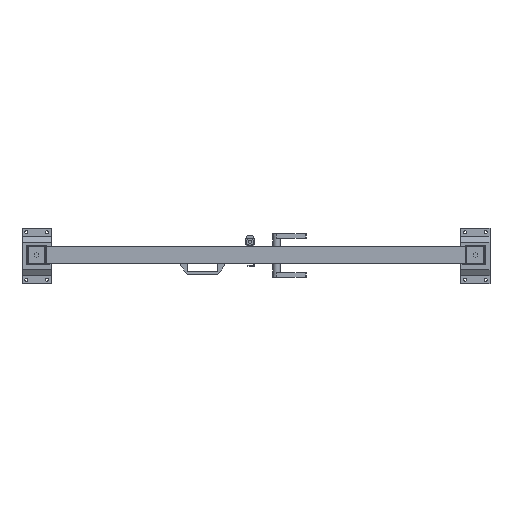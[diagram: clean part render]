
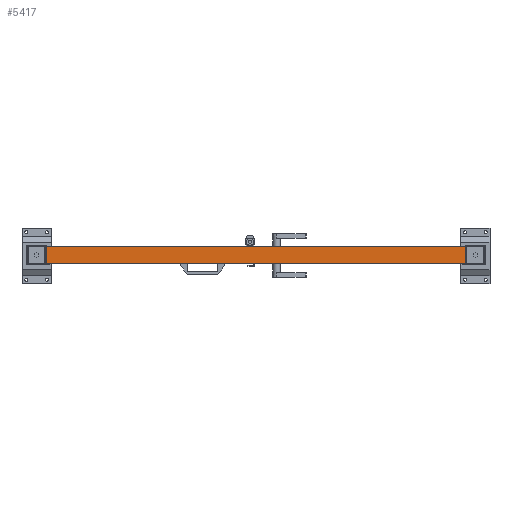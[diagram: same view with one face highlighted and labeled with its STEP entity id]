
A CAD part, top view. The second image highlights one B-rep face of the part: STEP entity #5417.
In plain terms, the highlighted planar face has unit normal (0, 0, 1).
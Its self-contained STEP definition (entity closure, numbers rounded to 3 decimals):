
#628=FACE_OUTER_BOUND('',#1016,.T.);
#1016=EDGE_LOOP('',(#3362,#3363,#3364,#3365));
#1481=VERTEX_POINT('',#10781);
#1484=VERTEX_POINT('',#10786);
#1485=VERTEX_POINT('',#10790);
#1486=VERTEX_POINT('',#10792);
#2234=EDGE_CURVE('',#1481,#1484,#6177,.T.);
#2235=EDGE_CURVE('',#1485,#1481,#6178,.T.);
#2236=EDGE_CURVE('',#1486,#1484,#6179,.T.);
#2237=EDGE_CURVE('',#1485,#1486,#6180,.T.);
#3362=ORIENTED_EDGE('',*,*,#2235,.T.);
#3363=ORIENTED_EDGE('',*,*,#2234,.T.);
#3364=ORIENTED_EDGE('',*,*,#2236,.F.);
#3365=ORIENTED_EDGE('',*,*,#2237,.F.);
#5103=PLANE('',#7771);
#5417=ADVANCED_FACE('',(#628),#5103,.T.);
#6177=LINE('',#10788,#7033);
#6178=LINE('',#10791,#7034);
#6179=LINE('',#10793,#7035);
#6180=LINE('',#10794,#7036);
#7033=VECTOR('',#8592,1.);
#7034=VECTOR('',#8595,1.);
#7035=VECTOR('',#8596,1.);
#7036=VECTOR('',#8597,1.);
#7771=AXIS2_PLACEMENT_3D('',#10789,#8593,#8594);
#8592=DIRECTION('',(1.,0.,0.));
#8593=DIRECTION('center_axis',(0.,0.,1.));
#8594=DIRECTION('ref_axis',(0.,-1.,0.));
#8595=DIRECTION('',(0.,-1.,0.));
#8596=DIRECTION('',(0.,-1.,0.));
#8597=DIRECTION('',(1.,0.,0.));
#10781=CARTESIAN_POINT('',(2042.755,1594.412,2099.));
#10786=CARTESIAN_POINT('',(3482.755,1594.412,2099.));
#10788=CARTESIAN_POINT('',(2042.755,1594.412,2099.));
#10789=CARTESIAN_POINT('Origin',(2042.755,1654.412,2099.));
#10790=CARTESIAN_POINT('',(2042.755,1654.412,2099.));
#10791=CARTESIAN_POINT('',(2042.755,1654.412,2099.));
#10792=CARTESIAN_POINT('',(3482.755,1654.412,2099.));
#10793=CARTESIAN_POINT('',(3482.755,1654.412,2099.));
#10794=CARTESIAN_POINT('',(2042.755,1654.412,2099.));
